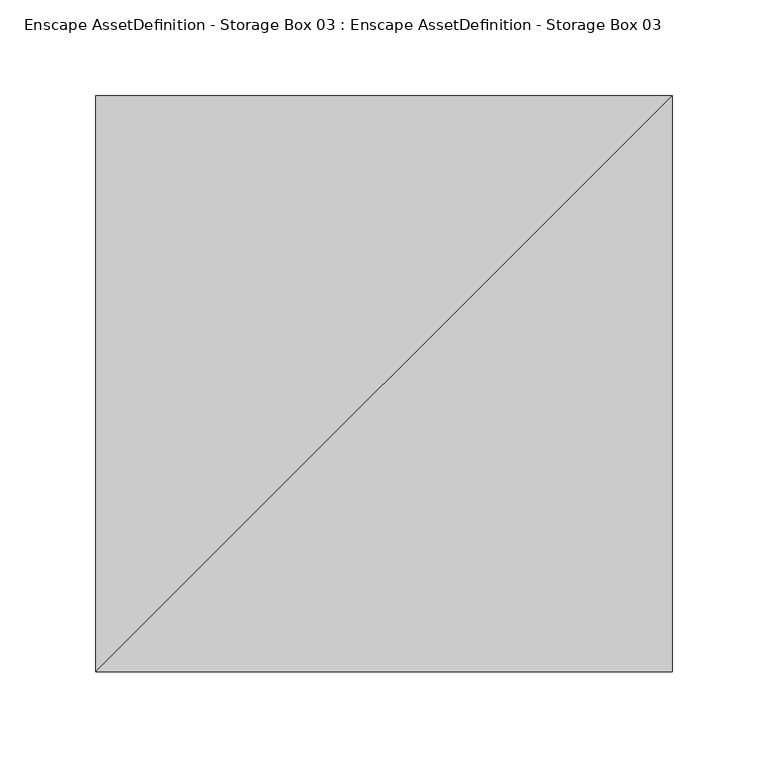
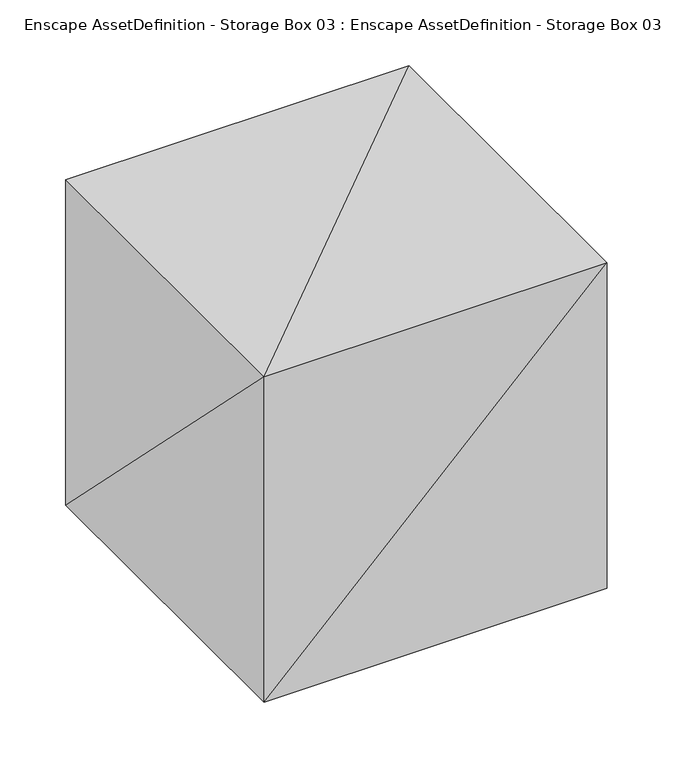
"""IFC4 building model written with IfcOpenShell, lengths in millimetres: geographic element geometry, Enscape AssetDefinition - Storage Box 03 : Enscape AssetDefinition - Storage Box 03."""

from ifc_helpers import new_model, si_unit, origin, place, context, project, spatial, faceted_brep, source, transform, mapped, element, save


def enscape_assetdefinition_storage_box_03_enscape_0ef3ab0d(model_context):
    return source(origin(), model_context, "Body", "Brep", [
        faceted_brep([(150.1618624, 150.2587944, 0.0), (-150.3210068, -150.1401961, 0.0), (-150.3210068, 150.2587944, 0.0), (150.1618624, -150.1401961, 0.0), (150.1618624, 150.2587944, 301.2036681), (-150.3210068, -150.1401961, 301.2036681), (150.1618624, -150.1401961, 301.2036681), (-150.3210068, 150.2587944, 301.2036681)], [[[0, 1, 2]], [[1, 0, 3]], [[4, 5, 6]], [[5, 4, 7]], [[6, 1, 3]], [[1, 6, 5]], [[4, 3, 0]], [[3, 4, 6]], [[7, 0, 2]], [[0, 7, 4]], [[5, 2, 1]], [[2, 5, 7]]]),
    ])


if __name__ == "__main__":
    model = new_model("IFC4")
    model_context = context("Model", 3, world=origin())
    ifc_project = project(units=[si_unit("LENGTHUNIT", "METRE", prefix="MILLI")], contexts=[model_context])
    site = spatial("IfcSite", under=ifc_project)
    building = spatial("IfcBuilding", under=site)
    placement = place(None, origin())
    enscape_assetdefinition_storage_box_03_enscape_shape = enscape_assetdefinition_storage_box_03_enscape_0ef3ab0d(model_context)
    element("IfcGeographicElement", 1, ObjectType="Enscape AssetDefinition - Storage Box 03 : Enscape AssetDefinition - Storage Box 03", at=placement, inside=building, context=model_context, shape_type="MappedRepresentation", body=[
        mapped(enscape_assetdefinition_storage_box_03_enscape_shape, transform((0.0, 0.0, 0.0), x_axis=(1.0, 0.0, 0.0), y_axis=(0.0, 1.0, 0.0), z_axis=(0.0, 0.0, 1.0))),
    ])
    save(model, "model.ifc")
